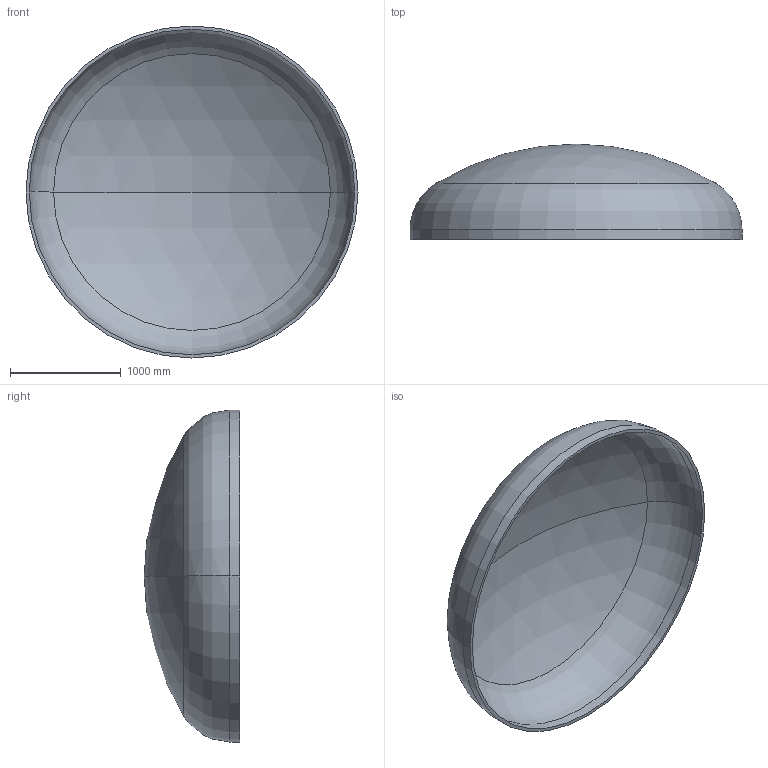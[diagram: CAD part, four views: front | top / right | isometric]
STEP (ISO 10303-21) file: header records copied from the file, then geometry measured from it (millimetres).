
FILE_DESCRIPTION (( 'STEP AP203' ), '1' );
FILE_NAME ('DIN 28013 Korbbogenform_-_Boden DIN 28013 - 3000 x 90 - I - s=29.step', '2016-07-01T17:39:30', ( '' ), ( '' ), 'SwSTEP 2.0', 'SolidWorks 2013', '' );
FILE_SCHEMA (( 'CONFIG_CONTROL_DESIGN' ));
Length unit declared in the file: millimetre
Products named in the file (1): DIN 28013 Korbbogenform_-_Boden DIN 28013 - 3000 x 90 - I - s=29
Bounding box: 3000 x 863.26 x 3000 mm (x, y, z)
Volume: 304423586.9 mm3; surface area: 21267160.2 mm2
Topology: 1 solids, 1 shells, 13 faces, 24 edges, 14 vertices
Faces by surface type: torus 4, cylinder 4, sphere 4, plane 1
Entity records: 407 total; most frequent: DIRECTION 72, CARTESIAN_POINT 52, ORIENTED_EDGE 48, AXIS2_PLACEMENT_3D 34, EDGE_CURVE 24, CIRCLE 20, EDGE_LOOP 14, VERTEX_POINT 14
